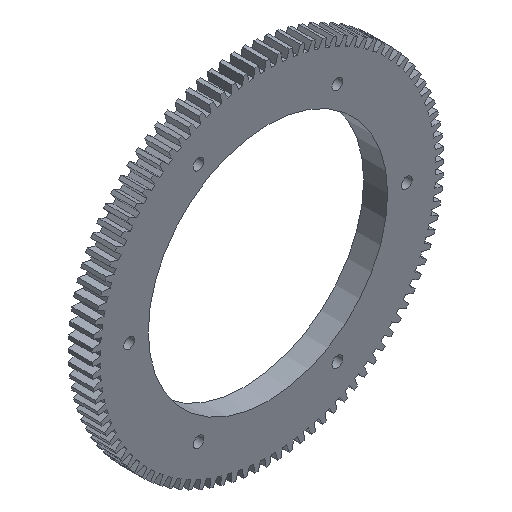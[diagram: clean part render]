
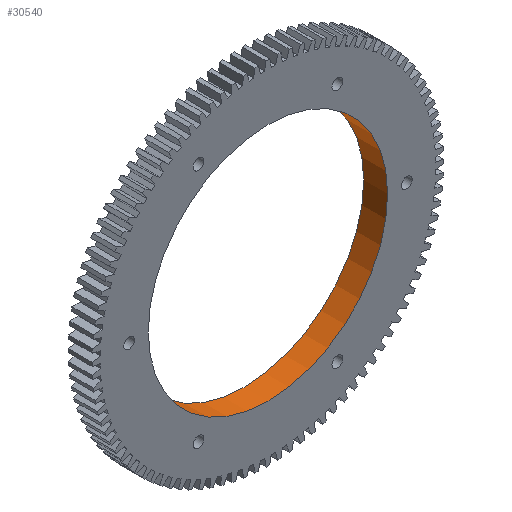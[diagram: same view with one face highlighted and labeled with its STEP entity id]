
A CAD part, isometric view. The second image highlights one B-rep face of the part: STEP entity #30540.
In plain terms, the highlighted cylindrical face has radius 50 mm (diameter 100 mm), a full revolution.
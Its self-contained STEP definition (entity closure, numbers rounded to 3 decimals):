
#72 = PLANE('',#73);
#73 = AXIS2_PLACEMENT_3D('',#74,#75,#76);
#74 = CARTESIAN_POINT('',(0.,45.,0.));
#75 = DIRECTION('',(0.,1.,0.));
#76 = DIRECTION('',(1.,0.,0.));
#126 = PLANE('',#127);
#127 = AXIS2_PLACEMENT_3D('',#128,#129,#130);
#128 = CARTESIAN_POINT('',(0.,35.,0.));
#129 = DIRECTION('',(0.,1.,0.));
#130 = DIRECTION('',(1.,0.,0.));
#11094 = EDGE_CURVE('',#11095,#11095,#11097,.T.);
#11095 = VERTEX_POINT('',#11096);
#11096 = CARTESIAN_POINT('',(0.,35.,50.));
#11097 = SURFACE_CURVE('',#11098,(#11103,#11110),.PCURVE_S1.);
#11098 = CIRCLE('',#11099,50.);
#11099 = AXIS2_PLACEMENT_3D('',#11100,#11101,#11102);
#11100 = CARTESIAN_POINT('',(0.,35.,0.));
#11101 = DIRECTION('',(0.,1.,0.));
#11102 = DIRECTION('',(0.,-0.,1.));
#11103 = PCURVE('',#126,#11104);
#11104 = DEFINITIONAL_REPRESENTATION('',(#11105),#11109);
#11105 = CIRCLE('',#11106,50.);
#11106 = AXIS2_PLACEMENT_2D('',#11107,#11108);
#11107 = CARTESIAN_POINT('',(0.,0.));
#11108 = DIRECTION('',(0.,-1.));
#11109 = ( GEOMETRIC_REPRESENTATION_CONTEXT(2) 
PARAMETRIC_REPRESENTATION_CONTEXT() REPRESENTATION_CONTEXT('2D SPACE',''
  ) );
#11110 = PCURVE('',#11111,#11116);
#11111 = CYLINDRICAL_SURFACE('',#11112,50.);
#11112 = AXIS2_PLACEMENT_3D('',#11113,#11114,#11115);
#11113 = CARTESIAN_POINT('',(0.,34.,0.));
#11114 = DIRECTION('',(0.,1.,0.));
#11115 = DIRECTION('',(0.,-0.,1.));
#11116 = DEFINITIONAL_REPRESENTATION('',(#11117),#11121);
#11117 = LINE('',#11118,#11119);
#11118 = CARTESIAN_POINT('',(0.,1.));
#11119 = VECTOR('',#11120,1.);
#11120 = DIRECTION('',(1.,0.));
#11121 = ( GEOMETRIC_REPRESENTATION_CONTEXT(2) 
PARAMETRIC_REPRESENTATION_CONTEXT() REPRESENTATION_CONTEXT('2D SPACE',''
  ) );
#20082 = EDGE_CURVE('',#20083,#20083,#20085,.T.);
#20083 = VERTEX_POINT('',#20084);
#20084 = CARTESIAN_POINT('',(0.,45.,50.));
#20085 = SURFACE_CURVE('',#20086,(#20091,#20098),.PCURVE_S1.);
#20086 = CIRCLE('',#20087,50.);
#20087 = AXIS2_PLACEMENT_3D('',#20088,#20089,#20090);
#20088 = CARTESIAN_POINT('',(0.,45.,0.));
#20089 = DIRECTION('',(0.,1.,0.));
#20090 = DIRECTION('',(0.,-0.,1.));
#20091 = PCURVE('',#72,#20092);
#20092 = DEFINITIONAL_REPRESENTATION('',(#20093),#20097);
#20093 = CIRCLE('',#20094,50.);
#20094 = AXIS2_PLACEMENT_2D('',#20095,#20096);
#20095 = CARTESIAN_POINT('',(0.,0.));
#20096 = DIRECTION('',(0.,-1.));
#20097 = ( GEOMETRIC_REPRESENTATION_CONTEXT(2) 
PARAMETRIC_REPRESENTATION_CONTEXT() REPRESENTATION_CONTEXT('2D SPACE',''
  ) );
#20098 = PCURVE('',#11111,#20099);
#20099 = DEFINITIONAL_REPRESENTATION('',(#20100),#20104);
#20100 = LINE('',#20101,#20102);
#20101 = CARTESIAN_POINT('',(0.,11.));
#20102 = VECTOR('',#20103,1.);
#20103 = DIRECTION('',(1.,0.));
#20104 = ( GEOMETRIC_REPRESENTATION_CONTEXT(2) 
PARAMETRIC_REPRESENTATION_CONTEXT() REPRESENTATION_CONTEXT('2D SPACE',''
  ) );
#30540 = ADVANCED_FACE('',(#30541),#11111,.F.);
#30541 = FACE_BOUND('',#30542,.F.);
#30542 = EDGE_LOOP('',(#30543,#30544,#30565,#30566));
#30543 = ORIENTED_EDGE('',*,*,#20082,.F.);
#30544 = ORIENTED_EDGE('',*,*,#30545,.F.);
#30545 = EDGE_CURVE('',#11095,#20083,#30546,.T.);
#30546 = SEAM_CURVE('',#30547,(#30551,#30558),.PCURVE_S1.);
#30547 = LINE('',#30548,#30549);
#30548 = CARTESIAN_POINT('',(0.,34.,50.));
#30549 = VECTOR('',#30550,1.);
#30550 = DIRECTION('',(0.,1.,0.));
#30551 = PCURVE('',#11111,#30552);
#30552 = DEFINITIONAL_REPRESENTATION('',(#30553),#30557);
#30553 = LINE('',#30554,#30555);
#30554 = CARTESIAN_POINT('',(6.283,-0.));
#30555 = VECTOR('',#30556,1.);
#30556 = DIRECTION('',(0.,1.));
#30557 = ( GEOMETRIC_REPRESENTATION_CONTEXT(2) 
PARAMETRIC_REPRESENTATION_CONTEXT() REPRESENTATION_CONTEXT('2D SPACE',''
  ) );
#30558 = PCURVE('',#11111,#30559);
#30559 = DEFINITIONAL_REPRESENTATION('',(#30560),#30564);
#30560 = LINE('',#30561,#30562);
#30561 = CARTESIAN_POINT('',(0.,-0.));
#30562 = VECTOR('',#30563,1.);
#30563 = DIRECTION('',(0.,1.));
#30564 = ( GEOMETRIC_REPRESENTATION_CONTEXT(2) 
PARAMETRIC_REPRESENTATION_CONTEXT() REPRESENTATION_CONTEXT('2D SPACE',''
  ) );
#30565 = ORIENTED_EDGE('',*,*,#11094,.T.);
#30566 = ORIENTED_EDGE('',*,*,#30545,.T.);
